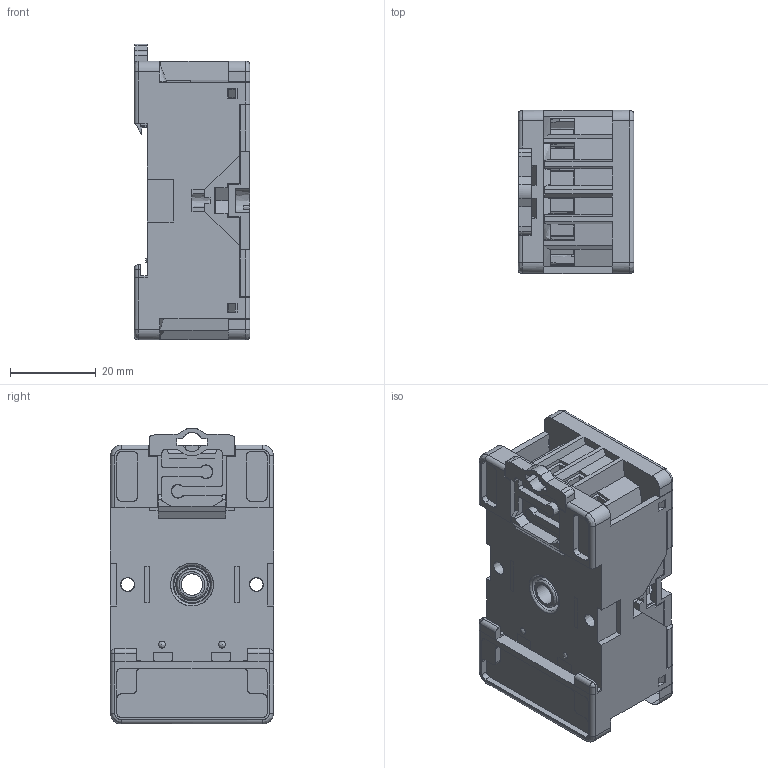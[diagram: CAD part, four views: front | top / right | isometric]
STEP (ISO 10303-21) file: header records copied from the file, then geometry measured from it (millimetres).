
FILE_DESCRIPTION(('STEP AP214'),'2;1');
FILE_NAME('9083 Undecal.stp','2010-12-07T11:36:26',(''),(''),'2007.1.106','THINKDESIGN','');
FILE_SCHEMA(('AUTOMOTIVE_DESIGN'));
Products named in the file (1): None
Bounding box: 27 x 38 x 69 mm (x, y, z)
Surface area: 23040.7 mm2 (no closed solid volume)
Topology: 0 solids, 0 shells, 1159 faces, 7177 edges, 7131 vertices
Faces by surface type: bspline 675, plane 423, cylinder 61
Full cylindrical faces by diameter (mm): 4.6 x11
Entity records: 73775 total; most frequent: CARTESIAN_POINT 28107, COMPOSITE_CURVE_SEGMENT 7167, DIRECTION 6791, TRIMMED_CURVE 5624, VECTOR 5447, LINE 5447, OUTER_BOUNDARY_CURVE 1159, CURVE_BOUNDED_SURFACE 1159
